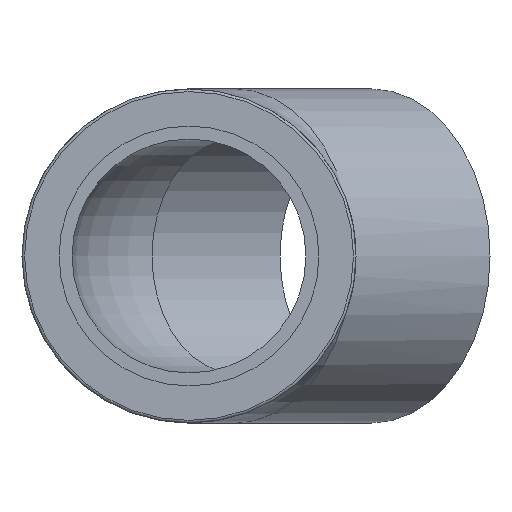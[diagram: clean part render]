
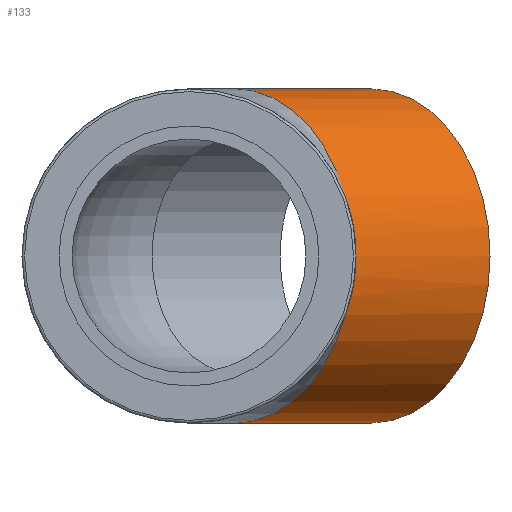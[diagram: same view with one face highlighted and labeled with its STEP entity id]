
A CAD part, left-side view. The second image highlights one B-rep face of the part: STEP entity #133.
In plain terms, the highlighted cylindrical face has radius 15.5 mm (diameter 31 mm), a full revolution.
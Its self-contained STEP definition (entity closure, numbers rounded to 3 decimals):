
#15=ELLIPSE('',#154,16.777,15.5);
#23=CYLINDRICAL_SURFACE('',#153,15.5);
#30=FACE_BOUND('',#58,.T.);
#41=FACE_OUTER_BOUND('',#57,.T.);
#57=EDGE_LOOP('',(#113,#114));
#58=EDGE_LOOP('',(#115));
#74=CIRCLE('',#152,15.5);
#75=CIRCLE('',#155,15.5);
#84=VERTEX_POINT('',#253);
#85=VERTEX_POINT('',#254);
#86=VERTEX_POINT('',#259);
#96=EDGE_CURVE('',#85,#84,#74,.T.);
#97=EDGE_CURVE('',#84,#85,#15,.T.);
#98=EDGE_CURVE('',#86,#86,#75,.T.);
#113=ORIENTED_EDGE('',*,*,#97,.F.);
#114=ORIENTED_EDGE('',*,*,#96,.F.);
#115=ORIENTED_EDGE('',*,*,#98,.T.);
#133=ADVANCED_FACE('',(#41,#30),#23,.T.);
#152=AXIS2_PLACEMENT_3D('',#256,#188,#189);
#153=AXIS2_PLACEMENT_3D('',#257,#190,#191);
#154=AXIS2_PLACEMENT_3D('',#258,#192,#193);
#155=AXIS2_PLACEMENT_3D('',#260,#194,#195);
#188=DIRECTION('center_axis',(-0.707,0.707,0.));
#189=DIRECTION('ref_axis',(0.,0.,-1.));
#190=DIRECTION('center_axis',(-0.707,0.707,0.));
#191=DIRECTION('ref_axis',(-0.707,-0.707,0.));
#192=DIRECTION('center_axis',(-0.924,0.383,0.));
#193=DIRECTION('ref_axis',(-0.383,-0.924,0.));
#194=DIRECTION('center_axis',(-0.707,0.707,0.));
#195=DIRECTION('ref_axis',(0.,0.,-1.));
#253=CARTESIAN_POINT('',(-6.,-14.485,-5.516));
#254=CARTESIAN_POINT('',(-6.,-14.485,5.516));
#256=CARTESIAN_POINT('Origin',(4.243,-4.243,0.));
#257=CARTESIAN_POINT('Origin',(10.607,-10.607,0.));
#258=CARTESIAN_POINT('Origin',(0.,0.,0.));
#259=CARTESIAN_POINT('',(6.01,-27.931,0.));
#260=CARTESIAN_POINT('Origin',(16.971,-16.971,0.));
